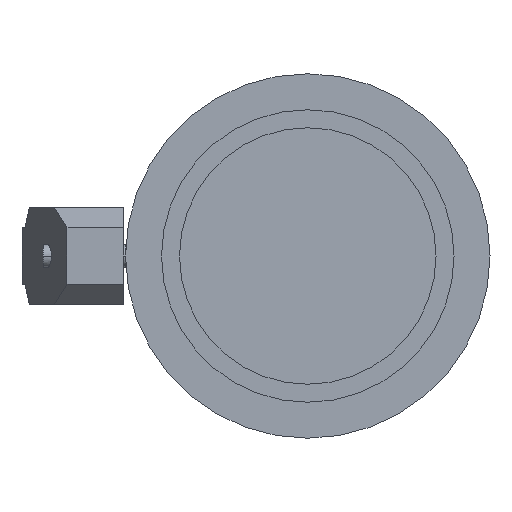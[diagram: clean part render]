
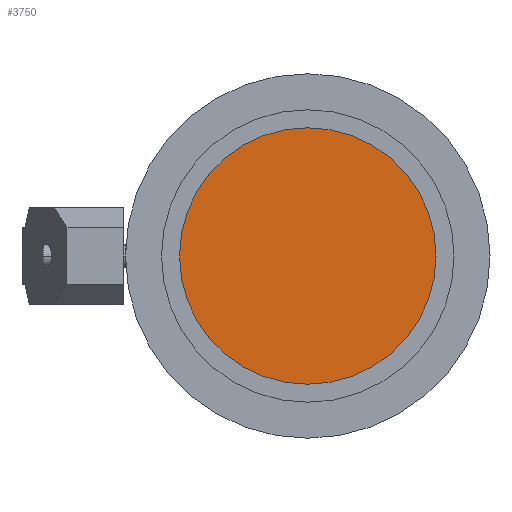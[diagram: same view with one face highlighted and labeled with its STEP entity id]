
A CAD part, left-side view. The second image highlights one B-rep face of the part: STEP entity #3750.
In plain terms, the highlighted planar face has unit normal (-1, 0, 0).
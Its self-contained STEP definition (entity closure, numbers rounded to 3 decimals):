
#2900=CARTESIAN_POINT('',(-290.595,94.875,
0.));
#2910=VERTEX_POINT('',#2900);
#2960=CARTESIAN_POINT('',(-290.595,37.875,0.));
#2970=DIRECTION('',(-1.,0.,0.));
#2980=DIRECTION('',(0.,-1.,0.));
#2990=AXIS2_PLACEMENT_3D('',#2960,#2970,#2980);
#3000=CIRCLE('',#2990,57.);
#3010=CARTESIAN_POINT('',(-290.595,-19.125,0.));
#3020=VERTEX_POINT('',#3010);
#3030=EDGE_CURVE('',#2910,#3020,#3000,.T.);
#3650=CARTESIAN_POINT('',(-290.595,12.651,
31.768));
#3660=DIRECTION('',(-1.,0.,0.));
#3670=DIRECTION('',(0.,-1.,0.));
#3680=AXIS2_PLACEMENT_3D('',#3650,#3660,#3670);
#3690=PLANE('',#3680);
#3700=EDGE_CURVE('',#3020,#2910,#3000,.T.);
#3710=ORIENTED_EDGE('',*,*,#3700,.T.);
#3720=ORIENTED_EDGE('',*,*,#3030,.T.);
#3730=EDGE_LOOP('',(#3720,#3710));
#3740=FACE_OUTER_BOUND('',#3730,.T.);
#3750=ADVANCED_FACE('',(#3740),#3690,.T.);
